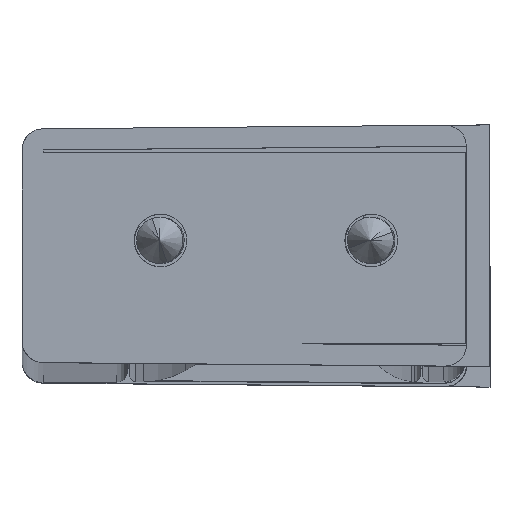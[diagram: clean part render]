
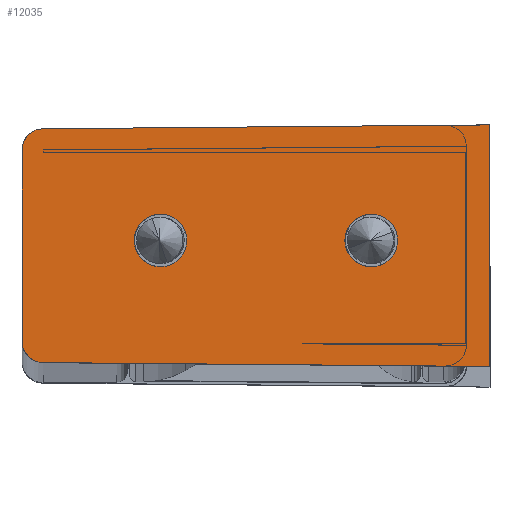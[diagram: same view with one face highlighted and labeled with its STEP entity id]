
A CAD part, top view. The second image highlights one B-rep face of the part: STEP entity #12035.
In plain terms, the highlighted planar face has unit normal (-0.009, 0, 1) as drawn and (0.009, 0, -1) by its records, which use the part's own axes.
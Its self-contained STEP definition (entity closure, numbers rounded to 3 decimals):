
#832 = ORIENTED_EDGE ( 'NONE', *, *, #34904, .T. ) ;
#1184 = CARTESIAN_POINT ( 'NONE',  ( -1.6, -1.7, -3.18 ) ) ;
#1354 = CARTESIAN_POINT ( 'NONE',  ( 19.126, 9.399, -2.999 ) ) ;
#1607 =( BOUNDED_CURVE ( )  B_SPLINE_CURVE ( 3, ( #3420, #38466, #9555, #15670 ),
 .UNSPECIFIED., .F., .T. ) 
 B_SPLINE_CURVE_WITH_KNOTS ( ( 4, 4 ),
 ( 3.142, 4.704 ),
 .UNSPECIFIED. ) 
 CURVE ( )  GEOMETRIC_REPRESENTATION_ITEM ( )  RATIONAL_B_SPLINE_CURVE ( ( 1., 0.807, 0.807, 1. ) ) 
 REPRESENTATION_ITEM ( '' )  );
#1657 = VECTOR ( 'NONE', #30294, 1000. ) ;
#1711 = DIRECTION ( 'NONE',  ( -0.009, 0., 1. ) ) ;
#2742 = EDGE_CURVE ( 'NONE', #33248, #15088, #26480, .T. ) ;
#3304 = ORIENTED_EDGE ( 'NONE', *, *, #12695, .T. ) ;
#3314 = PLANE ( 'NONE',  #21854 ) ;
#3420 = CARTESIAN_POINT ( 'NONE',  ( 20.6, -0.695, -2.986 ) ) ;
#4501 = ORIENTED_EDGE ( 'NONE', *, *, #30049, .T. ) ;
#4502 = DIRECTION ( 'NONE',  ( 1., 0., 0.009 ) ) ;
#5026 = CARTESIAN_POINT ( 'NONE',  ( 19.609, 9.395, -2.995 ) ) ;
#5324 = VERTEX_POINT ( 'NONE', #6530 ) ;
#5703 = CIRCLE ( 'NONE', #25952, 1.25 ) ;
#5709 = AXIS2_PLACEMENT_3D ( 'NONE', #33428, #26676, #4502 ) ;
#6530 = CARTESIAN_POINT ( 'NONE',  ( 19.609, -1.695, -2.995 ) ) ;
#7232 = VERTEX_POINT ( 'NONE', #7743 ) ;
#7743 = CARTESIAN_POINT ( 'NONE',  ( 5.283, 4.1, -3.12 ) ) ;
#7755 = VERTEX_POINT ( 'NONE', #31724 ) ;
#9098 = VERTEX_POINT ( 'NONE', #24539 ) ;
#9555 = CARTESIAN_POINT ( 'NONE',  ( 20.19, -1.69, -2.99 ) ) ;
#11004 = CIRCLE ( 'NONE', #19064, 1.25 ) ;
#11562 = CARTESIAN_POINT ( 'NONE',  ( 19.609, 9.395, -2.995 ) ) ;
#12035 = ADVANCED_FACE ( 'NONE', ( #20164, #29459, #32224 ), #3314, .T. ) ;
#12072 = CARTESIAN_POINT ( 'NONE',  ( 20.6, 8.395, -2.986 ) ) ;
#12145 = VERTEX_POINT ( 'NONE', #23754 ) ;
#12496 = ORIENTED_EDGE ( 'NONE', *, *, #37497, .T. ) ;
#12695 = EDGE_CURVE ( 'NONE', #24004, #7755, #34697, .T. ) ;
#12765 = VERTEX_POINT ( 'NONE', #12072 ) ;
#13515 = VECTOR ( 'NONE', #17881, 1000. ) ;
#13614 = CARTESIAN_POINT ( 'NONE',  ( 4.033, 4.1, -3.131 ) ) ;
#14348 = DIRECTION ( 'NONE',  ( 1., 0., 0.009 ) ) ;
#15088 = VERTEX_POINT ( 'NONE', #5026 ) ;
#15318 = EDGE_CURVE ( 'NONE', #12765, #9098, #23968, .T. ) ;
#15444 = EDGE_CURVE ( 'NONE', #35887, #33248, #30093, .T. ) ;
#15670 = CARTESIAN_POINT ( 'NONE',  ( 19.609, -1.695, -2.995 ) ) ;
#16110 = ORIENTED_EDGE ( 'NONE', *, *, #39984, .T. ) ;
#16794 = DIRECTION ( 'NONE',  ( 0.009, 0., -1. ) ) ;
#17301 = ORIENTED_EDGE ( 'NONE', *, *, #2742, .T. ) ;
#17857 = ORIENTED_EDGE ( 'NONE', *, *, #15318, .T. ) ;
#17881 = DIRECTION ( 'NONE',  ( -1., -0.009, -0.009 ) ) ;
#17959 = EDGE_LOOP ( 'NONE', ( #35936, #16110 ) ) ;
#19064 = AXIS2_PLACEMENT_3D ( 'NONE', #20840, #37108, #21057 ) ;
#19427 = EDGE_CURVE ( 'NONE', #9098, #5324, #1607, .T. ) ;
#19535 = CARTESIAN_POINT ( 'NONE',  ( 19., 0., -3. ) ) ;
#20148 = DIRECTION ( 'NONE',  ( 1., 0., 0.009 ) ) ;
#20164 = FACE_BOUND ( 'NONE', #41372, .T. ) ;
#20651 = CARTESIAN_POINT ( 'NONE',  ( 20.19, 9.39, -2.99 ) ) ;
#20759 = DIRECTION ( 'NONE',  ( 1., -0.009, 0.009 ) ) ;
#20840 = CARTESIAN_POINT ( 'NONE',  ( 4.033, 4.1, -3.131 ) ) ;
#21057 = DIRECTION ( 'NONE',  ( 1., 0., 0.009 ) ) ;
#21854 = AXIS2_PLACEMENT_3D ( 'NONE', #19535, #16794, #29884 ) ;
#22133 = EDGE_LOOP ( 'NONE', ( #17857, #33041, #12496, #40585, #17301, #4501 ) ) ;
#23527 = DIRECTION ( 'NONE',  ( -0.009, 0., 1. ) ) ;
#23754 = CARTESIAN_POINT ( 'NONE',  ( 2.783, 4.1, -3.142 ) ) ;
#23968 = LINE ( 'NONE', #39604, #38045 ) ;
#24004 = VERTEX_POINT ( 'NONE', #32025 ) ;
#24080 = VECTOR ( 'NONE', #20759, 1000. ) ;
#24539 = CARTESIAN_POINT ( 'NONE',  ( 20.6, -0.695, -2.986 ) ) ;
#25697 = CIRCLE ( 'NONE', #34444, 1.25 ) ;
#25952 = AXIS2_PLACEMENT_3D ( 'NONE', #31001, #1711, #14348 ) ;
#26480 = LINE ( 'NONE', #1354, #24080 ) ;
#26676 = DIRECTION ( 'NONE',  ( -0.009, 0., 1. ) ) ;
#27782 = CARTESIAN_POINT ( 'NONE',  ( 19.126, -1.699, -2.999 ) ) ;
#29459 = FACE_BOUND ( 'NONE', #17959, .T. ) ;
#29884 = DIRECTION ( 'NONE',  ( -1., 0., -0.009 ) ) ;
#30049 = EDGE_CURVE ( 'NONE', #15088, #12765, #32897, .T. ) ;
#30093 = LINE ( 'NONE', #1184, #1657 ) ;
#30294 = DIRECTION ( 'NONE',  ( 0., 1., 0. ) ) ;
#30510 = DIRECTION ( 'NONE',  ( 0., -1., 0. ) ) ;
#31001 = CARTESIAN_POINT ( 'NONE',  ( 14.033, 4.1, -3.043 ) ) ;
#31724 = CARTESIAN_POINT ( 'NONE',  ( 15.283, 4.1, -3.032 ) ) ;
#32025 = CARTESIAN_POINT ( 'NONE',  ( 12.783, 4.1, -3.054 ) ) ;
#32224 = FACE_OUTER_BOUND ( 'NONE', #22133, .T. ) ;
#32897 =( BOUNDED_CURVE ( )  B_SPLINE_CURVE ( 3, ( #11562, #20651, #34149, #33525 ),
 .UNSPECIFIED., .F., .T. ) 
 B_SPLINE_CURVE_WITH_KNOTS ( ( 4, 4 ),
 ( 1.58, 3.142 ),
 .UNSPECIFIED. ) 
 CURVE ( )  GEOMETRIC_REPRESENTATION_ITEM ( )  RATIONAL_B_SPLINE_CURVE ( ( 1., 0.807, 0.807, 1. ) ) 
 REPRESENTATION_ITEM ( '' )  );
#33041 = ORIENTED_EDGE ( 'NONE', *, *, #19427, .T. ) ;
#33248 = VERTEX_POINT ( 'NONE', #39574 ) ;
#33428 = CARTESIAN_POINT ( 'NONE',  ( 14.033, 4.1, -3.043 ) ) ;
#33525 = CARTESIAN_POINT ( 'NONE',  ( 20.6, 8.395, -2.986 ) ) ;
#34149 = CARTESIAN_POINT ( 'NONE',  ( 20.6, 8.976, -2.986 ) ) ;
#34444 = AXIS2_PLACEMENT_3D ( 'NONE', #13614, #23527, #20148 ) ;
#34697 = CIRCLE ( 'NONE', #5709, 1.25 ) ;
#34904 = EDGE_CURVE ( 'NONE', #7755, #24004, #5703, .T. ) ;
#35690 = EDGE_CURVE ( 'NONE', #7232, #12145, #25697, .T. ) ;
#35887 = VERTEX_POINT ( 'NONE', #41034 ) ;
#35936 = ORIENTED_EDGE ( 'NONE', *, *, #35690, .T. ) ;
#37108 = DIRECTION ( 'NONE',  ( -0.009, 0., 1. ) ) ;
#37497 = EDGE_CURVE ( 'NONE', #5324, #35887, #40044, .T. ) ;
#38045 = VECTOR ( 'NONE', #30510, 1000. ) ;
#38466 = CARTESIAN_POINT ( 'NONE',  ( 20.6, -1.276, -2.986 ) ) ;
#39574 = CARTESIAN_POINT ( 'NONE',  ( -1.6, 9.58, -3.18 ) ) ;
#39604 = CARTESIAN_POINT ( 'NONE',  ( 20.6, 9.4, -2.986 ) ) ;
#39984 = EDGE_CURVE ( 'NONE', #12145, #7232, #11004, .T. ) ;
#40044 = LINE ( 'NONE', #27782, #13515 ) ;
#40585 = ORIENTED_EDGE ( 'NONE', *, *, #15444, .T. ) ;
#41034 = CARTESIAN_POINT ( 'NONE',  ( -1.6, -1.88, -3.18 ) ) ;
#41372 = EDGE_LOOP ( 'NONE', ( #832, #3304 ) ) ;
